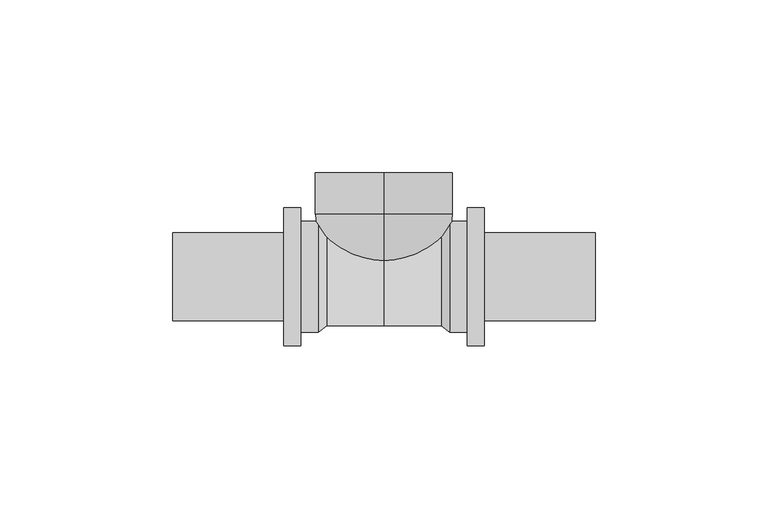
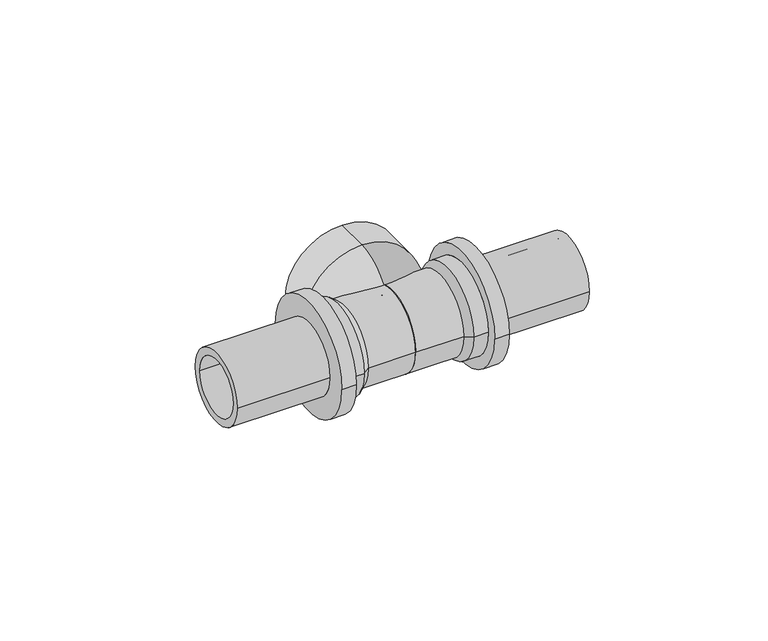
"""IFC4 building model written with IfcOpenShell, lengths in millimetres: pipe fitting geometry, REHAU_RAUTITAN_T-piece RX+, outlet with internal thread : REHAU_RAUTITAN_T-piece RX+, outlet with internal thread."""

from ifc_helpers import new_model, si_unit, point, frame, origin, place, context, project, spatial, polyline, circle_curve, ellipse_curve, trimmed, source, transform, mapped, element, save
from ifc_brep_helpers import plane_surface, cylinder_surface, revolved_surface, advanced_brep


def pipe_fitting_80a5c932(model_context):
    return source(origin(), model_context, "Body", "AdvancedBrep", [
        advanced_brep(
        [(0.0, 1.9427828, 4.33), (0.0, 1.9427828, -4.33), (0.0, 18.0, -19.895), (0.0, 18.0, 19.895), (0.0, 5.7752209, 4.33), (0.0, 5.7752209, -4.33), (0.0, 18.0, 16.065), (0.0, 18.0, -16.065), (0.0, 30.0, 16.065), (0.0, 30.0, -16.065), (0.0, 30.0, -19.895), (0.0, 30.0, 19.895)],
        [
            (0, 1, circle_curve(frame((0.0, 1.9427828, 0.0), z_axis=(0.0, 1.0, 0.0), x_axis=(0.0, 0.0, -1.0)), 4.33)),
            (1, 2, circle_curve(frame((0.0, 18.0, -3.83), z_axis=(1.0, 0.0, 0.0), x_axis=(0.0, 1.0, 0.0)), 16.065)),
            (2, 3, circle_curve(frame((0.0, 18.0, 0.0), z_axis=(0.0, -1.0, 0.0), x_axis=(0.0, 0.0, -1.0)), 19.895)),
            (3, 0, circle_curve(frame((0.0, 18.0, 3.83), z_axis=(1.0, 0.0, 0.0), x_axis=(0.0, 1.0, 0.0)), 16.065)),
            (4, 5, circle_curve(frame((0.0, 5.7752209, 0.0), z_axis=(0.0, 1.0, 0.0), x_axis=(0.0, 0.0, -1.0)), 4.33)),
            (5, 1),
            (0, 4),
            (6, 7, circle_curve(frame((0.0, 18.0, 0.0), z_axis=(0.0, 1.0, 0.0), x_axis=(0.0, 0.0, -1.0)), 16.065)),
            (7, 5, circle_curve(frame((0.0, 18.0, -3.83), z_axis=(-1.0, 0.0, 0.0), x_axis=(0.0, 1.0, 0.0)), 12.235)),
            (4, 6, circle_curve(frame((0.0, 18.0, 3.83), z_axis=(-1.0, 0.0, 0.0), x_axis=(0.0, 1.0, 0.0)), 12.235)),
            (8, 9, circle_curve(frame((0.0, 30.0, 0.0), z_axis=(0.0, 1.0, 0.0), x_axis=(0.0, 0.0, -1.0)), 16.065)),
            (9, 7),
            (6, 8),
            (2, 10),
            (10, 11, circle_curve(frame((0.0, 30.0, 0.0), z_axis=(0.0, -1.0, 0.0), x_axis=(0.0, 0.0, -1.0)), 19.895)),
            (11, 3),
            (1, 0, circle_curve(frame((0.0, 1.9427828, 0.0), z_axis=(0.0, 1.0, 0.0), x_axis=(0.0, 0.0, 1.0)), 4.33)),
            (3, 2, circle_curve(frame((0.0, 18.0, 0.0), z_axis=(0.0, -1.0, 0.0), x_axis=(0.0, 0.0, 1.0)), 19.895)),
            (5, 4, circle_curve(frame((0.0, 5.7752209, 0.0), z_axis=(0.0, 1.0, 0.0), x_axis=(0.0, 0.0, 1.0)), 4.33)),
            (7, 6, circle_curve(frame((0.0, 18.0, 0.0), z_axis=(0.0, 1.0, 0.0), x_axis=(0.0, 0.0, 1.0)), 16.065)),
            (9, 8, circle_curve(frame((0.0, 30.0, 0.0), z_axis=(0.0, 1.0, 0.0), x_axis=(0.0, 0.0, 1.0)), 16.065)),
            (10, 11, circle_curve(frame((0.0, 30.0, 0.0), z_axis=(0.0, 1.0, 0.0), x_axis=(0.0, 0.0, 1.0)), 19.895)),
        ],
        [
            revolved_surface(trimmed(ellipse_curve(frame((0.0, 18.0, -3.83), z_axis=(-1.0, 0.0, 0.0), x_axis=(0.0, 1.0, 0.0)), 16.065, 16.065), [point((0.0, 18.0, -19.895))], [point((0.0, 1.9427828, -4.33))], True, "CARTESIAN"), (0.0, 0.0, 0.0), (0.0, -1.0, 0.0)),
            revolved_surface(polyline([(0.0, 1.9427828, -4.33), (0.0, 5.7752209, -4.33)]), (0.0, 0.0, 0.0), (0.0, -1.0, 0.0)),
            revolved_surface(trimmed(ellipse_curve(frame((0.0, 18.0, -3.83), z_axis=(1.0, 0.0, 0.0), x_axis=(0.0, 1.0, 0.0)), 12.235, 12.235), [point((0.0, 5.7752209, -4.33))], [point((0.0, 18.0, -16.065))], True, "CARTESIAN"), (0.0, 0.0, 0.0), (0.0, -1.0, 0.0)),
            revolved_surface(polyline([(0.0, 18.0, -16.065), (0.0, 30.0, -16.065)]), (0.0, 0.0, 0.0), (0.0, -1.0, 0.0)),
            cylinder_surface(frame((0.0, 0.0, 0.0), z_axis=(0.0, -1.0, 0.0), x_axis=(0.0, 0.0, -1.0)), 19.895),
            revolved_surface(trimmed(ellipse_curve(frame((0.0, 18.0, 3.83), z_axis=(1.0, 0.0, 0.0), x_axis=(0.0, 1.0, 0.0)), 16.065, 16.065), [point((0.0, 18.0, 19.895))], [point((0.0, 1.9427828, 4.33))], True, "CARTESIAN"), (0.0, 0.0, 0.0), (0.0, -1.0, 0.0)),
            revolved_surface(polyline([(0.0, 1.9427828, 4.33), (0.0, 5.7752209, 4.33)]), (0.0, 0.0, 0.0), (0.0, -1.0, 0.0)),
            revolved_surface(trimmed(ellipse_curve(frame((0.0, 18.0, 3.83), z_axis=(-1.0, 0.0, 0.0), x_axis=(0.0, 1.0, 0.0)), 12.235, 12.235), [point((0.0, 5.7752209, 4.33))], [point((0.0, 18.0, 16.065))], True, "CARTESIAN"), (0.0, 0.0, 0.0), (0.0, -1.0, 0.0)),
            revolved_surface(polyline([(0.0, 18.0, 16.065), (0.0, 30.0, 16.065)]), (0.0, 0.0, 0.0), (0.0, -1.0, 0.0)),
            plane_surface(frame((0.0, 30.0, 0.0), z_axis=(0.0, 1.0, 0.0), x_axis=(0.0, 0.0, 1.0))),
            cylinder_surface(frame((0.0, 0.0, 0.0), z_axis=(0.0, -1.0, 0.0), x_axis=(0.0, 0.0, 1.0)), 19.895),
        ],
        [
            (0, [[1, 2, 3, 4]]),
            (1, [[5, 6, -1, 7]]),
            (2, [[8, 9, -5, 10]]),
            (3, [[11, 12, -8, 13]]),
            (4, [[-3, 14, 15, 16]]),
            (5, [[17, -4, 18, -2]]),
            (6, [[19, -7, -17, -6]]),
            (7, [[20, -10, -19, -9]]),
            (8, [[21, -13, -20, -12]]),
            (9, [[22, -15], [-21, -11]]),
            (10, [[-18, -16, -22, -14]]),
        ],
    ),
        advanced_brep(
        [(19.0, 10.0, 0.0), (19.0, -10.0, 0.0), (61.0, -10.0, 0.0), (61.0, 10.0, 0.0), (16.5, 10.5, 0.0), (16.5, -10.5, 0.0), (0.0, 10.5, 0.0), (0.0, -10.5, 0.0), (16.5, 14.19, 0.0), (16.5, -14.19, 0.0), (0.0, -14.19, 0.0), (0.0, 14.19, 0.0), (19.0, 16.0, 0.0), (19.0, -16.0, 0.0), (24.0, 16.0, 0.0), (24.0, -16.0, 0.0), (29.0, 20.0, 0.0), (29.0, -20.0, 0.0), (24.0, -20.0, 0.0), (24.0, 20.0, 0.0), (61.0, 12.725, 0.0), (61.0, -12.725, 0.0), (29.0, -12.725, 0.0), (29.0, 12.725, 0.0)],
        [
            (0, 1, circle_curve(frame((19.0, 0.0, 0.0), z_axis=(-1.0, 0.0, 0.0), x_axis=(0.0, -1.0, 0.0)), 10.0)),
            (1, 2),
            (2, 3, circle_curve(frame((61.0, 0.0, 0.0), z_axis=(1.0, 0.0, 0.0), x_axis=(0.0, -1.0, 0.0)), 10.0)),
            (3, 0),
            (4, 5, circle_curve(frame((16.5, 0.0, 0.0), z_axis=(-1.0, 0.0, 0.0), x_axis=(0.0, -1.0, 0.0)), 10.5)),
            (5, 1),
            (0, 4),
            (6, 7, circle_curve(frame((0.0, 0.0, 0.0), z_axis=(-1.0, 0.0, 0.0), x_axis=(0.0, -1.0, 0.0)), 10.5)),
            (7, 5),
            (4, 6),
            (8, 9, circle_curve(frame((16.5, 0.0, 0.0), z_axis=(-1.0, 0.0, 0.0), x_axis=(0.0, -1.0, 0.0)), 14.19)),
            (9, 10),
            (10, 11, circle_curve(frame((0.0, 0.0, 0.0), z_axis=(1.0, 0.0, 0.0), x_axis=(0.0, -1.0, 0.0)), 14.19)),
            (11, 8),
            (12, 13, circle_curve(frame((19.0, 0.0, 0.0), z_axis=(-1.0, 0.0, 0.0), x_axis=(0.0, -1.0, 0.0)), 16.0)),
            (13, 9),
            (8, 12),
            (14, 15, circle_curve(frame((24.0, 0.0, 0.0), z_axis=(-1.0, 0.0, 0.0), x_axis=(0.0, -1.0, 0.0)), 16.0)),
            (15, 13),
            (12, 14),
            (16, 17, circle_curve(frame((29.0, 0.0, 0.0), z_axis=(-1.0, 0.0, 0.0), x_axis=(0.0, -1.0, 0.0)), 20.0)),
            (17, 18),
            (18, 19, circle_curve(frame((24.0, 0.0, 0.0), z_axis=(1.0, 0.0, 0.0), x_axis=(0.0, -1.0, 0.0)), 20.0)),
            (19, 16),
            (20, 21, circle_curve(frame((61.0, 0.0, 0.0), z_axis=(-1.0, 0.0, 0.0), x_axis=(0.0, -1.0, 0.0)), 12.725)),
            (21, 22),
            (22, 23, circle_curve(frame((29.0, 0.0, 0.0), z_axis=(1.0, 0.0, 0.0), x_axis=(0.0, -1.0, 0.0)), 12.725)),
            (23, 20),
            (20, 21, circle_curve(frame((61.0, 0.0, 0.0), z_axis=(1.0, 0.0, 0.0), x_axis=(0.0, 1.0, 0.0)), 12.725)),
            (2, 3, circle_curve(frame((61.0, 0.0, 0.0), z_axis=(-1.0, 0.0, 0.0), x_axis=(0.0, 1.0, 0.0)), 10.0)),
            (1, 0, circle_curve(frame((19.0, 0.0, 0.0), z_axis=(-1.0, 0.0, 0.0), x_axis=(0.0, 1.0, 0.0)), 10.0)),
            (5, 4, circle_curve(frame((16.5, 0.0, 0.0), z_axis=(-1.0, 0.0, 0.0), x_axis=(0.0, 1.0, 0.0)), 10.5)),
            (7, 6, circle_curve(frame((0.0, 0.0, 0.0), z_axis=(-1.0, 0.0, 0.0), x_axis=(0.0, 1.0, 0.0)), 10.5)),
            (10, 11, circle_curve(frame((0.0, 0.0, 0.0), z_axis=(-1.0, 0.0, 0.0), x_axis=(0.0, 1.0, 0.0)), 14.19)),
            (9, 8, circle_curve(frame((16.5, 0.0, 0.0), z_axis=(-1.0, 0.0, 0.0), x_axis=(0.0, 1.0, 0.0)), 14.19)),
            (13, 12, circle_curve(frame((19.0, 0.0, 0.0), z_axis=(-1.0, 0.0, 0.0), x_axis=(0.0, 1.0, 0.0)), 16.0)),
            (15, 14, circle_curve(frame((24.0, 0.0, 0.0), z_axis=(-1.0, 0.0, 0.0), x_axis=(0.0, 1.0, 0.0)), 16.0)),
            (18, 19, circle_curve(frame((24.0, 0.0, 0.0), z_axis=(-1.0, 0.0, 0.0), x_axis=(0.0, 1.0, 0.0)), 20.0)),
            (17, 16, circle_curve(frame((29.0, 0.0, 0.0), z_axis=(-1.0, 0.0, 0.0), x_axis=(0.0, 1.0, 0.0)), 20.0)),
            (22, 23, circle_curve(frame((29.0, 0.0, 0.0), z_axis=(-1.0, 0.0, 0.0), x_axis=(0.0, 1.0, 0.0)), 12.725)),
        ],
        [
            revolved_surface(polyline([(61.0, -10.0, 0.0), (19.0, -10.0, 0.0)]), (0.0, 0.0, 0.0), (1.0, 0.0, 0.0)),
            revolved_surface(polyline([(19.0, -10.0, 0.0), (16.5, -10.5, 0.0)]), (0.0, 0.0, 0.0), (1.0, 0.0, 0.0)),
            revolved_surface(polyline([(16.5, -10.5, 0.0), (0.0, -10.5, 0.0)]), (0.0, 0.0, 0.0), (1.0, 0.0, 0.0)),
            cylinder_surface(frame((0.0, 0.0, 0.0), z_axis=(1.0, 0.0, 0.0), x_axis=(0.0, -1.0, 0.0)), 14.19),
            revolved_surface(polyline([(16.5, -14.19, 0.0), (19.0, -16.0, 0.0)]), (0.0, 0.0, 0.0), (1.0, 0.0, 0.0)),
            cylinder_surface(frame((0.0, 0.0, 0.0), z_axis=(1.0, 0.0, 0.0), x_axis=(0.0, -1.0, 0.0)), 16.0),
            cylinder_surface(frame((0.0, 0.0, 0.0), z_axis=(1.0, 0.0, 0.0), x_axis=(0.0, -1.0, 0.0)), 20.0),
            cylinder_surface(frame((0.0, 0.0, 0.0), z_axis=(1.0, 0.0, 0.0), x_axis=(0.0, -1.0, 0.0)), 12.725),
            plane_surface(frame((61.0, 0.0, 0.0), z_axis=(1.0, 0.0, 0.0), x_axis=(0.0, 1.0, 0.0))),
            revolved_surface(polyline([(61.0, 10.0, 0.0), (19.0, 10.0, 0.0)]), (0.0, 0.0, 0.0), (1.0, 0.0, 0.0)),
            revolved_surface(polyline([(19.0, 10.0, 0.0), (16.5, 10.5, 0.0)]), (0.0, 0.0, 0.0), (1.0, 0.0, 0.0)),
            revolved_surface(polyline([(16.5, 10.5, 0.0), (0.0, 10.5, 0.0)]), (0.0, 0.0, 0.0), (1.0, 0.0, 0.0)),
            plane_surface(frame((0.0, 0.0, 0.0), z_axis=(-1.0, 0.0, 0.0), x_axis=(0.0, 1.0, 0.0))),
            cylinder_surface(frame((0.0, 0.0, 0.0), z_axis=(1.0, 0.0, 0.0), x_axis=(0.0, 1.0, 0.0)), 14.19),
            revolved_surface(polyline([(16.5, 14.19, 0.0), (19.0, 16.0, 0.0)]), (0.0, 0.0, 0.0), (1.0, 0.0, 0.0)),
            cylinder_surface(frame((0.0, 0.0, 0.0), z_axis=(1.0, 0.0, 0.0), x_axis=(0.0, 1.0, 0.0)), 16.0),
            plane_surface(frame((24.0, 0.0, 0.0), z_axis=(-1.0, 0.0, 0.0), x_axis=(0.0, 1.0, 0.0))),
            cylinder_surface(frame((0.0, 0.0, 0.0), z_axis=(1.0, 0.0, 0.0), x_axis=(0.0, 1.0, 0.0)), 20.0),
            plane_surface(frame((29.0, 0.0, 0.0), z_axis=(1.0, 0.0, 0.0), x_axis=(0.0, 1.0, 0.0))),
            cylinder_surface(frame((0.0, 0.0, 0.0), z_axis=(1.0, 0.0, 0.0), x_axis=(0.0, 1.0, 0.0)), 12.725),
        ],
        [
            (0, [[1, 2, 3, 4]]),
            (1, [[5, 6, -1, 7]]),
            (2, [[8, 9, -5, 10]]),
            (3, [[11, 12, 13, 14]]),
            (4, [[15, 16, -11, 17]]),
            (5, [[18, 19, -15, 20]]),
            (6, [[21, 22, 23, 24]]),
            (7, [[25, 26, 27, 28]]),
            (8, [[29, -25], [30, -3]]),
            (9, [[31, -4, -30, -2]]),
            (10, [[32, -7, -31, -6]]),
            (11, [[33, -10, -32, -9]]),
            (12, [[34, -13], [-33, -8]]),
            (13, [[35, -14, -34, -12]]),
            (14, [[36, -17, -35, -16]]),
            (15, [[37, -20, -36, -19]]),
            (16, [[38, -23], [-37, -18]]),
            (17, [[39, -24, -38, -22]]),
            (18, [[-39, -21], [40, -27]]),
            (19, [[-29, -28, -40, -26]]),
        ],
    ),
        advanced_brep(
        [(-29.0, 12.725, 0.0), (-29.0, -12.725, 0.0), (-61.0, -12.725, 0.0), (-61.0, 12.725, 0.0), (-24.0, 20.0, 0.0), (-24.0, -20.0, 0.0), (-29.0, -20.0, 0.0), (-29.0, 20.0, 0.0), (-19.0, 16.0, 0.0), (-19.0, -16.0, 0.0), (-24.0, -16.0, 0.0), (-24.0, 16.0, 0.0), (-16.5, 14.19, 0.0), (-16.5, -14.19, 0.0), (0.0, 14.19, 0.0), (0.0, -14.19, 0.0), (-16.5, 10.5, 0.0), (-16.5, -10.5, 0.0), (0.0, -10.5, 0.0), (0.0, 10.5, 0.0), (-19.0, 10.0, 0.0), (-19.0, -10.0, 0.0), (-61.0, 10.0, 0.0), (-61.0, -10.0, 0.0)],
        [
            (0, 1, circle_curve(frame((-29.0, 0.0, 0.0), z_axis=(-1.0, 0.0, 0.0), x_axis=(0.0, -1.0, 0.0)), 12.725)),
            (1, 2),
            (2, 3, circle_curve(frame((-61.0, 0.0, 0.0), z_axis=(1.0, 0.0, 0.0), x_axis=(0.0, -1.0, 0.0)), 12.725)),
            (3, 0),
            (4, 5, circle_curve(frame((-24.0, 0.0, 0.0), z_axis=(-1.0, 0.0, 0.0), x_axis=(0.0, -1.0, 0.0)), 20.0)),
            (5, 6),
            (6, 7, circle_curve(frame((-29.0, 0.0, 0.0), z_axis=(1.0, 0.0, 0.0), x_axis=(0.0, -1.0, 0.0)), 20.0)),
            (7, 4),
            (8, 9, circle_curve(frame((-19.0, 0.0, 0.0), z_axis=(-1.0, 0.0, 0.0), x_axis=(0.0, -1.0, 0.0)), 16.0)),
            (9, 10),
            (10, 11, circle_curve(frame((-24.0, 0.0, 0.0), z_axis=(1.0, 0.0, 0.0), x_axis=(0.0, -1.0, 0.0)), 16.0)),
            (11, 8),
            (12, 13, circle_curve(frame((-16.5, 0.0, 0.0), z_axis=(-1.0, 0.0, 0.0), x_axis=(0.0, -1.0, 0.0)), 14.19)),
            (13, 9),
            (8, 12),
            (14, 15, circle_curve(frame((0.0, 0.0, 0.0), z_axis=(-1.0, 0.0, 0.0), x_axis=(0.0, -1.0, 0.0)), 14.19)),
            (15, 13),
            (12, 14),
            (16, 17, circle_curve(frame((-16.5, 0.0, 0.0), z_axis=(-1.0, 0.0, 0.0), x_axis=(0.0, -1.0, 0.0)), 10.5)),
            (17, 18),
            (18, 19, circle_curve(frame((0.0, 0.0, 0.0), z_axis=(1.0, 0.0, 0.0), x_axis=(0.0, -1.0, 0.0)), 10.5)),
            (19, 16),
            (20, 21, circle_curve(frame((-19.0, 0.0, 0.0), z_axis=(-1.0, 0.0, 0.0), x_axis=(0.0, -1.0, 0.0)), 10.0)),
            (21, 17),
            (16, 20),
            (22, 23, circle_curve(frame((-61.0, 0.0, 0.0), z_axis=(-1.0, 0.0, 0.0), x_axis=(0.0, -1.0, 0.0)), 10.0)),
            (23, 21),
            (20, 22),
            (1, 0, circle_curve(frame((-29.0, 0.0, 0.0), z_axis=(-1.0, 0.0, 0.0), x_axis=(0.0, 1.0, 0.0)), 12.725)),
            (3, 2, circle_curve(frame((-61.0, 0.0, 0.0), z_axis=(1.0, 0.0, 0.0), x_axis=(0.0, 1.0, 0.0)), 12.725)),
            (6, 7, circle_curve(frame((-29.0, 0.0, 0.0), z_axis=(-1.0, 0.0, 0.0), x_axis=(0.0, 1.0, 0.0)), 20.0)),
            (5, 4, circle_curve(frame((-24.0, 0.0, 0.0), z_axis=(-1.0, 0.0, 0.0), x_axis=(0.0, 1.0, 0.0)), 20.0)),
            (10, 11, circle_curve(frame((-24.0, 0.0, 0.0), z_axis=(-1.0, 0.0, 0.0), x_axis=(0.0, 1.0, 0.0)), 16.0)),
            (9, 8, circle_curve(frame((-19.0, 0.0, 0.0), z_axis=(-1.0, 0.0, 0.0), x_axis=(0.0, 1.0, 0.0)), 16.0)),
            (13, 12, circle_curve(frame((-16.5, 0.0, 0.0), z_axis=(-1.0, 0.0, 0.0), x_axis=(0.0, 1.0, 0.0)), 14.19)),
            (15, 14, circle_curve(frame((0.0, 0.0, 0.0), z_axis=(-1.0, 0.0, 0.0), x_axis=(0.0, 1.0, 0.0)), 14.19)),
            (18, 19, circle_curve(frame((0.0, 0.0, 0.0), z_axis=(-1.0, 0.0, 0.0), x_axis=(0.0, 1.0, 0.0)), 10.5)),
            (17, 16, circle_curve(frame((-16.5, 0.0, 0.0), z_axis=(-1.0, 0.0, 0.0), x_axis=(0.0, 1.0, 0.0)), 10.5)),
            (21, 20, circle_curve(frame((-19.0, 0.0, 0.0), z_axis=(-1.0, 0.0, 0.0), x_axis=(0.0, 1.0, 0.0)), 10.0)),
            (23, 22, circle_curve(frame((-61.0, 0.0, 0.0), z_axis=(-1.0, 0.0, 0.0), x_axis=(0.0, 1.0, 0.0)), 10.0)),
        ],
        [
            cylinder_surface(frame((0.0, 0.0, 0.0), z_axis=(1.0, 0.0, 0.0), x_axis=(0.0, -1.0, 0.0)), 12.725),
            cylinder_surface(frame((0.0, 0.0, 0.0), z_axis=(1.0, 0.0, 0.0), x_axis=(0.0, -1.0, 0.0)), 20.0),
            cylinder_surface(frame((0.0, 0.0, 0.0), z_axis=(1.0, 0.0, 0.0), x_axis=(0.0, -1.0, 0.0)), 16.0),
            revolved_surface(polyline([(-19.0, -16.0, 0.0), (-16.5, -14.19, 0.0)]), (0.0, 0.0, 0.0), (1.0, 0.0, 0.0)),
            cylinder_surface(frame((0.0, 0.0, 0.0), z_axis=(1.0, 0.0, 0.0), x_axis=(0.0, -1.0, 0.0)), 14.19),
            revolved_surface(polyline([(0.0, -10.5, 0.0), (-16.5, -10.5, 0.0)]), (0.0, 0.0, 0.0), (1.0, 0.0, 0.0)),
            revolved_surface(polyline([(-16.5, -10.5, 0.0), (-19.0, -10.0, 0.0)]), (0.0, 0.0, 0.0), (1.0, 0.0, 0.0)),
            revolved_surface(polyline([(-19.0, -10.0, 0.0), (-61.0, -10.0, 0.0)]), (0.0, 0.0, 0.0), (1.0, 0.0, 0.0)),
            cylinder_surface(frame((0.0, 0.0, 0.0), z_axis=(1.0, 0.0, 0.0), x_axis=(0.0, 1.0, 0.0)), 12.725),
            plane_surface(frame((-29.0, 0.0, 0.0), z_axis=(-1.0, 0.0, 0.0), x_axis=(0.0, 1.0, 0.0))),
            cylinder_surface(frame((0.0, 0.0, 0.0), z_axis=(1.0, 0.0, 0.0), x_axis=(0.0, 1.0, 0.0)), 20.0),
            plane_surface(frame((-24.0, 0.0, 0.0), z_axis=(1.0, 0.0, 0.0), x_axis=(0.0, 1.0, 0.0))),
            cylinder_surface(frame((0.0, 0.0, 0.0), z_axis=(1.0, 0.0, 0.0), x_axis=(0.0, 1.0, 0.0)), 16.0),
            revolved_surface(polyline([(-19.0, 16.0, 0.0), (-16.5, 14.19, 0.0)]), (0.0, 0.0, 0.0), (1.0, 0.0, 0.0)),
            cylinder_surface(frame((0.0, 0.0, 0.0), z_axis=(1.0, 0.0, 0.0), x_axis=(0.0, 1.0, 0.0)), 14.19),
            plane_surface(frame((0.0, 0.0, 0.0), z_axis=(1.0, 0.0, 0.0), x_axis=(0.0, 1.0, 0.0))),
            revolved_surface(polyline([(0.0, 10.5, 0.0), (-16.5, 10.5, 0.0)]), (0.0, 0.0, 0.0), (1.0, 0.0, 0.0)),
            revolved_surface(polyline([(-16.5, 10.5, 0.0), (-19.0, 10.0, 0.0)]), (0.0, 0.0, 0.0), (1.0, 0.0, 0.0)),
            revolved_surface(polyline([(-19.0, 10.0, 0.0), (-61.0, 10.0, 0.0)]), (0.0, 0.0, 0.0), (1.0, 0.0, 0.0)),
            plane_surface(frame((-61.0, 0.0, 0.0), z_axis=(-1.0, 0.0, 0.0), x_axis=(0.0, 1.0, 0.0))),
        ],
        [
            (0, [[1, 2, 3, 4]]),
            (1, [[5, 6, 7, 8]]),
            (2, [[9, 10, 11, 12]]),
            (3, [[13, 14, -9, 15]]),
            (4, [[16, 17, -13, 18]]),
            (5, [[19, 20, 21, 22]]),
            (6, [[23, 24, -19, 25]]),
            (7, [[26, 27, -23, 28]]),
            (8, [[29, -4, 30, -2]]),
            (9, [[31, -7], [-29, -1]]),
            (10, [[32, -8, -31, -6]]),
            (11, [[-32, -5], [33, -11]]),
            (12, [[34, -12, -33, -10]]),
            (13, [[35, -15, -34, -14]]),
            (14, [[36, -18, -35, -17]]),
            (15, [[-36, -16], [37, -21]]),
            (16, [[38, -22, -37, -20]]),
            (17, [[39, -25, -38, -24]]),
            (18, [[40, -28, -39, -27]]),
            (19, [[-30, -3], [-40, -26]]),
        ],
    ),
    ])


if __name__ == "__main__":
    model = new_model("IFC4")
    model_context = context("Model", 3, world=origin())
    ifc_project = project(units=[si_unit("LENGTHUNIT", "METRE", prefix="MILLI")], contexts=[model_context])
    site = spatial("IfcSite", under=ifc_project)
    building = spatial("IfcBuilding", under=site)
    placement = place(None, origin())
    pipe_fitting_shape = pipe_fitting_80a5c932(model_context)
    element("IfcPipeFitting", 1, ObjectType="REHAU_RAUTITAN_T-piece RX+, outlet with internal thread : REHAU_RAUTITAN_T-piece RX+, outlet with internal thread", at=placement, inside=building, context=model_context, shape_type="MappedRepresentation", body=[
        mapped(pipe_fitting_shape, transform((0.0, 0.0, 0.0), x_axis=(1.0, 0.0, 0.0), y_axis=(0.0, 1.0, 0.0), z_axis=(0.0, 0.0, 1.0))),
    ])
    save(model, "model.ifc")
